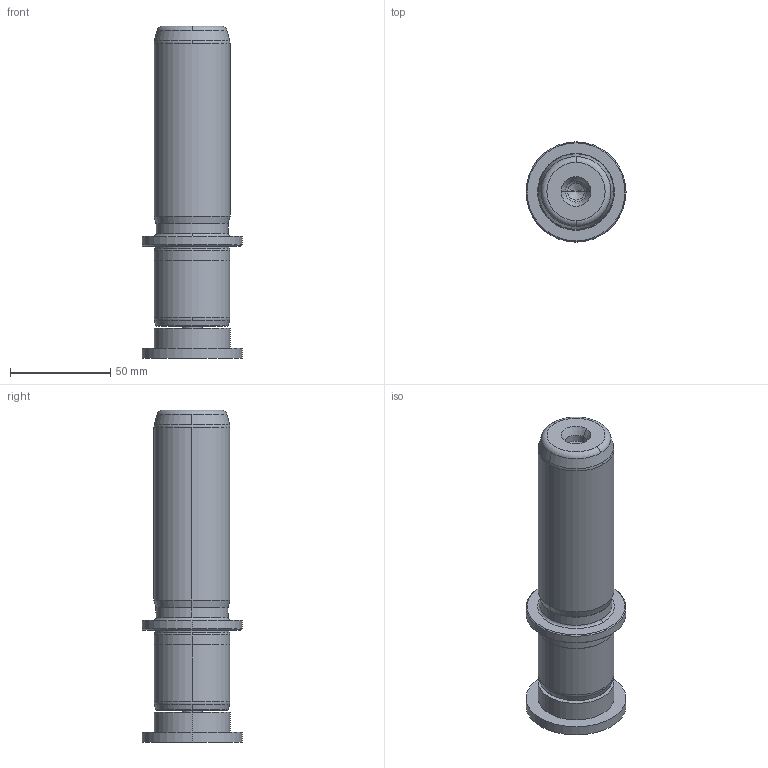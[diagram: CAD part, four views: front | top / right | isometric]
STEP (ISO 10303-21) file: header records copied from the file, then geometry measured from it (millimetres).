
FILE_DESCRIPTION((''),'2;1');
FILE_NAME('P22_038_110.stp','2009-02-16T09:14:22',(''),(''),'Mechanical Desktop 2009','Mechanical Desktop 2009',', , ');
FILE_SCHEMA(('CONFIG_CONTROL_DESIGN'));
Length unit declared in the file: millimetre
Products named in the file (2): Product; blmdl1
Assembly tree (1 placements, depth 2):
  Product
    blmdl1
Bounding box: 50 x 50 x 166 mm (x, y, z)
Volume: 189573.3 mm3; surface area: 31373.7 mm2
Topology: 3 solids, 3 shells, 99 faces, 237 edges, 149 vertices
Faces by surface type: cylinder 32, cone 28, plane 19, torus 10, bspline 10
Entity records: 3419 total; most frequent: CARTESIAN_POINT 923, DIRECTION 570, ORIENTED_EDGE 466, AXIS2_PLACEMENT_3D 246, EDGE_CURVE 233, CIRCLE 155, VERTEX_POINT 149, EDGE_LOOP 110
